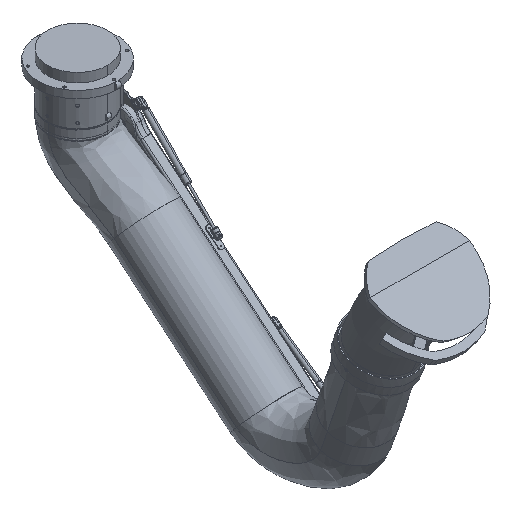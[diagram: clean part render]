
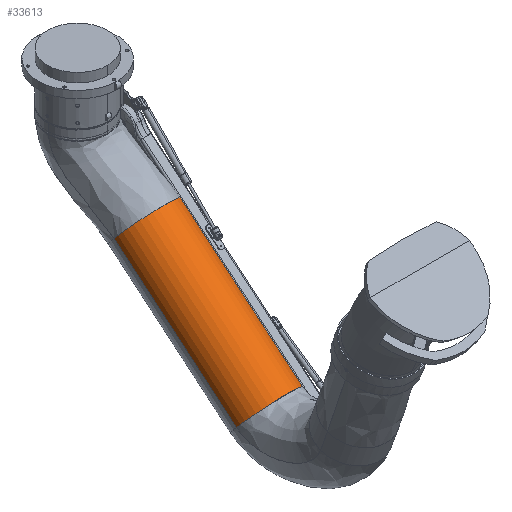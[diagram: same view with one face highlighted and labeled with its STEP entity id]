
A CAD part, isometric view. The second image highlights one B-rep face of the part: STEP entity #33613.
In plain terms, the highlighted free-form (B-spline) face has degree [3, 3] with [7, 6] control points.
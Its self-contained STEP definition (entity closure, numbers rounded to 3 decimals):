
#32437=CARTESIAN_POINT('',(0.,729.595,-326.882));
#32438=DIRECTION('',(0.,0.94,0.342));
#32439=DIRECTION('',(-1.,0.,0.));
#32440=AXIS2_PLACEMENT_3D('',#32437,#32438,#32439);
#32501=CARTESIAN_POINT('',(0.,234.854,-506.953));
#32502=DIRECTION('',(0.,0.94,0.342));
#32503=DIRECTION('',(-1.,0.,0.));
#32504=AXIS2_PLACEMENT_3D('',#32501,#32502,#32503);
#32509=CARTESIAN_POINT('',(-100.,234.854,
-506.953));
#32510=CARTESIAN_POINT('',(-100.,289.825,
-486.945));
#32511=CARTESIAN_POINT('',(-100.,399.767,
-446.93));
#32512=CARTESIAN_POINT('',(-100.,564.681,
-386.906));
#32513=CARTESIAN_POINT('',(-100.,674.623,
-346.89));
#32514=CARTESIAN_POINT('',(-100.,729.595,
-326.882));
#32760=CARTESIAN_POINT('',(100.,234.853,
-506.953));
#32761=CARTESIAN_POINT('',(100.,289.825,
-486.945));
#32762=CARTESIAN_POINT('',(100.,399.767,
-446.929));
#32763=CARTESIAN_POINT('',(100.,564.681,
-386.905));
#32764=CARTESIAN_POINT('',(100.,674.623,
-346.89));
#32765=CARTESIAN_POINT('',(100.,729.594,
-326.882));
#33327=CARTESIAN_POINT('',(100.,234.853,
-506.953));
#33328=CARTESIAN_POINT('',(-100.,234.854,
-506.953));
#33329=VERTEX_POINT('',#33327);
#33330=VERTEX_POINT('',#33328);
#33335=VERTEX_POINT('',#32765);
#33336=VERTEX_POINT('',#32514);
#33561=CARTESIAN_POINT('',(-99.803,227.106,
-516.455));
#33562=CARTESIAN_POINT('',(-99.803,230.405,
-515.255));
#33563=CARTESIAN_POINT('',(-99.803,398.617,
-454.03));
#33564=CARTESIAN_POINT('',(-99.803,570.127,
-391.606));
#33565=CARTESIAN_POINT('',(-99.803,738.339,
-330.382));
#33566=CARTESIAN_POINT('',(-99.803,741.637,
-329.181));
#33567=CARTESIAN_POINT('',(-103.667,206.1,
-458.741));
#33568=CARTESIAN_POINT('',(-103.667,209.398,
-457.54));
#33569=CARTESIAN_POINT('',(-103.667,377.61,
-396.316));
#33570=CARTESIAN_POINT('',(-103.667,549.121,
-333.891));
#33571=CARTESIAN_POINT('',(-103.667,717.332,
-272.667));
#33572=CARTESIAN_POINT('',(-103.667,720.631,
-271.467));
#33573=CARTESIAN_POINT('',(-61.54,190.757,
-416.585));
#33574=CARTESIAN_POINT('',(-61.54,194.055,
-415.385));
#33575=CARTESIAN_POINT('',(-61.54,362.267,
-354.161));
#33576=CARTESIAN_POINT('',(-61.54,533.777,
-291.736));
#33577=CARTESIAN_POINT('',(-61.54,701.989,
-230.512));
#33578=CARTESIAN_POINT('',(-61.54,705.287,
-229.311));
#33579=CARTESIAN_POINT('',(0.,190.757,
-416.585));
#33580=CARTESIAN_POINT('',(0.,194.055,
-415.385));
#33581=CARTESIAN_POINT('',(0.,362.267,
-354.161));
#33582=CARTESIAN_POINT('',(0.,533.777,
-291.736));
#33583=CARTESIAN_POINT('',(0.,701.989,
-230.512));
#33584=CARTESIAN_POINT('',(0.,705.287,
-229.311));
#33585=CARTESIAN_POINT('',(61.54,190.757,
-416.585));
#33586=CARTESIAN_POINT('',(61.54,194.055,
-415.385));
#33587=CARTESIAN_POINT('',(61.54,362.267,
-354.16));
#33588=CARTESIAN_POINT('',(61.54,533.777,
-291.736));
#33589=CARTESIAN_POINT('',(61.54,701.989,
-230.512));
#33590=CARTESIAN_POINT('',(61.54,705.287,
-229.311));
#33591=CARTESIAN_POINT('',(103.667,206.1,
-458.74));
#33592=CARTESIAN_POINT('',(103.667,209.398,
-457.54));
#33593=CARTESIAN_POINT('',(103.667,377.61,
-396.315));
#33594=CARTESIAN_POINT('',(103.667,549.12,
-333.891));
#33595=CARTESIAN_POINT('',(103.667,717.332,
-272.667));
#33596=CARTESIAN_POINT('',(103.667,720.631,
-271.466));
#33597=CARTESIAN_POINT('',(99.803,227.106,
-516.455));
#33598=CARTESIAN_POINT('',(99.803,230.404,
-515.254));
#33599=CARTESIAN_POINT('',(99.803,398.616,
-454.03));
#33600=CARTESIAN_POINT('',(99.803,570.127,
-391.605));
#33601=CARTESIAN_POINT('',(99.803,738.339,
-330.381));
#33602=CARTESIAN_POINT('',(99.803,741.637,
-329.181));
#33603=(BOUNDED_SURFACE()B_SPLINE_SURFACE(3,3,((#33561,#33562,#33563,#33564,
#33565,#33566),(#33567,#33568,#33569,#33570,#33571,#33572),(#33573,#33574,
#33575,#33576,#33577,#33578),(#33579,#33580,#33581,#33582,#33583,#33584),
(#33585,#33586,#33587,#33588,#33589,#33590),(#33591,#33592,#33593,#33594,#33595,
#33596),(#33597,#33598,#33599,#33600,#33601,#33602)),.UNSPECIFIED.,.F.,.F.,.F.)B_SPLINE_SURFACE_WITH_KNOTS((4,3,4),(4,1,1,4),(0.,1.,2.),(-0.02,0.,1.,
1.02),.UNSPECIFIED.)GEOMETRIC_REPRESENTATION_ITEM()RATIONAL_B_SPLINE_SURFACE((
(1.187,1.187,1.187,1.187,
1.187,1.187),(0.938,0.938,
0.938,0.938,0.938,0.938),(
0.938,0.938,0.938,0.938,
0.938,0.938),(1.187,1.187,
1.187,1.187,1.187,1.187),(
0.938,0.938,0.938,0.938,
0.938,0.938),(0.938,0.938,
0.938,0.938,0.938,0.938),(
1.187,1.187,1.187,1.187,
1.187,1.187)))REPRESENTATION_ITEM('')SURFACE());
#33605=ORIENTED_EDGE('',*,*,#33604,.F.);
#33607=ORIENTED_EDGE('',*,*,#33606,.T.);
#33608=ORIENTED_EDGE('',*,*,#33544,.T.);
#33610=ORIENTED_EDGE('',*,*,#33609,.F.);
#33611=EDGE_LOOP('',(#33605,#33607,#33608,#33610));
#33612=FACE_OUTER_BOUND('',#33611,.F.);
#32441=CIRCLE('',#32440,100.);
#32505=CIRCLE('',#32504,100.);
#32515=B_SPLINE_CURVE_WITH_KNOTS('',3,(#32509,#32510,#32511,#32512,#32513,
#32514),.UNSPECIFIED.,.F.,.F.,(4,1,1,4),(0.,0.333,
0.667,1.),.UNSPECIFIED.);
#32766=B_SPLINE_CURVE_WITH_KNOTS('',3,(#32760,#32761,#32762,#32763,#32764,
#32765),.UNSPECIFIED.,.F.,.F.,(4,1,1,4),(0.,0.333,
0.667,1.),.UNSPECIFIED.);
#33544=EDGE_CURVE('',#33336,#33335,#32441,.T.);
#33604=EDGE_CURVE('',#33330,#33329,#32505,.T.);
#33606=EDGE_CURVE('',#33330,#33336,#32515,.T.);
#33609=EDGE_CURVE('',#33329,#33335,#32766,.T.);
#33613=ADVANCED_FACE('',(#33612),#33603,.T.);
